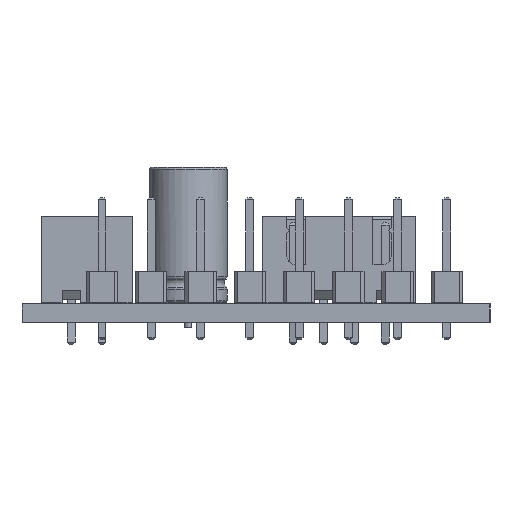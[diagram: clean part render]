
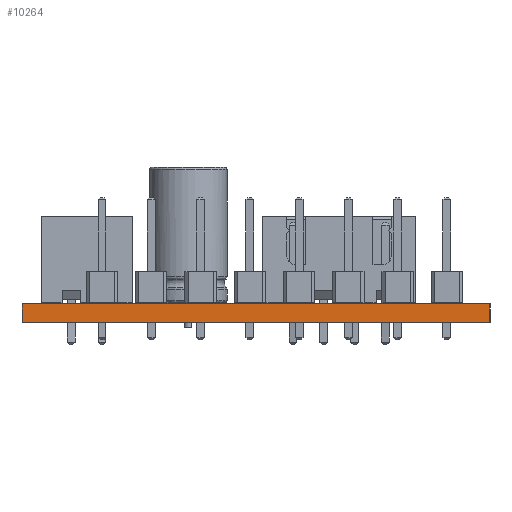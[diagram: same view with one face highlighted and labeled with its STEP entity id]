
A CAD part, left-side view. The second image highlights one B-rep face of the part: STEP entity #10264.
In plain terms, the highlighted planar face has unit normal (-1, 0, 0).
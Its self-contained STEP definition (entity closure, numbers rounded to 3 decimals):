
#10208 = VERTEX_POINT('',#10209);
#10209 = CARTESIAN_POINT('',(200.5,-74.5,1.51));
#10215 = EDGE_CURVE('',#10216,#10208,#10218,.T.);
#10216 = VERTEX_POINT('',#10217);
#10217 = CARTESIAN_POINT('',(200.5,-74.5,0.));
#10218 = LINE('',#10219,#10220);
#10219 = CARTESIAN_POINT('',(200.5,-74.5,0.));
#10220 = VECTOR('',#10221,1.);
#10221 = DIRECTION('',(0.,0.,1.));
#10264 = ADVANCED_FACE('',(#10265),#10290,.T.);
#10265 = FACE_BOUND('',#10266,.T.);
#10266 = EDGE_LOOP('',(#10267,#10268,#10276,#10284));
#10267 = ORIENTED_EDGE('',*,*,#10215,.T.);
#10268 = ORIENTED_EDGE('',*,*,#10269,.T.);
#10269 = EDGE_CURVE('',#10208,#10270,#10272,.T.);
#10270 = VERTEX_POINT('',#10271);
#10271 = CARTESIAN_POINT('',(200.5,-36.5,1.51));
#10272 = LINE('',#10273,#10274);
#10273 = CARTESIAN_POINT('',(200.5,-74.5,1.51));
#10274 = VECTOR('',#10275,1.);
#10275 = DIRECTION('',(0.,1.,0.));
#10276 = ORIENTED_EDGE('',*,*,#10277,.F.);
#10277 = EDGE_CURVE('',#10278,#10270,#10280,.T.);
#10278 = VERTEX_POINT('',#10279);
#10279 = CARTESIAN_POINT('',(200.5,-36.5,0.));
#10280 = LINE('',#10281,#10282);
#10281 = CARTESIAN_POINT('',(200.5,-36.5,0.));
#10282 = VECTOR('',#10283,1.);
#10283 = DIRECTION('',(0.,0.,1.));
#10284 = ORIENTED_EDGE('',*,*,#10285,.F.);
#10285 = EDGE_CURVE('',#10216,#10278,#10286,.T.);
#10286 = LINE('',#10287,#10288);
#10287 = CARTESIAN_POINT('',(200.5,-74.5,0.));
#10288 = VECTOR('',#10289,1.);
#10289 = DIRECTION('',(0.,1.,0.));
#10290 = PLANE('',#10291);
#10291 = AXIS2_PLACEMENT_3D('',#10292,#10293,#10294);
#10292 = CARTESIAN_POINT('',(200.5,-74.5,0.));
#10293 = DIRECTION('',(-1.,0.,0.));
#10294 = DIRECTION('',(0.,1.,0.));
